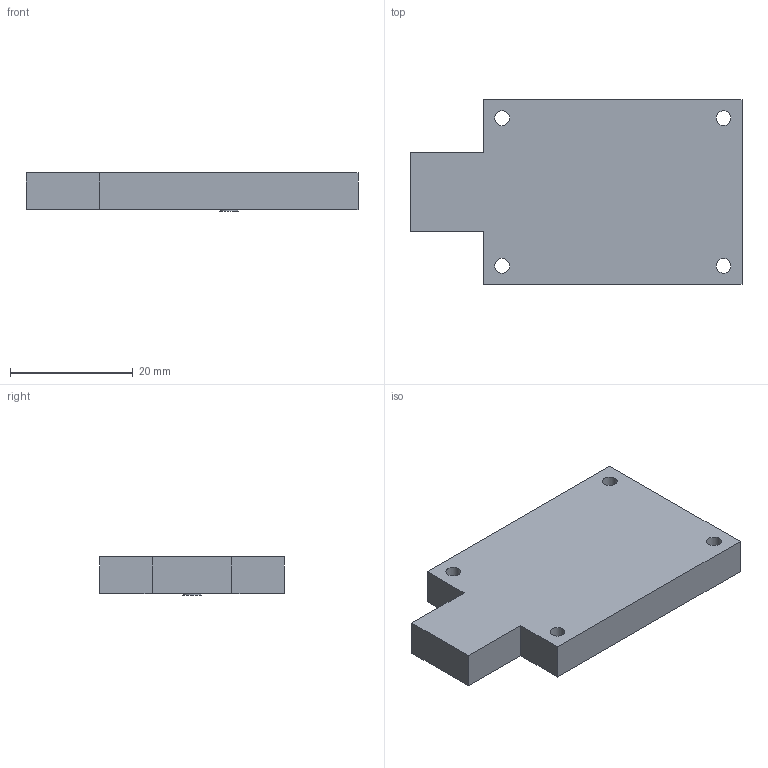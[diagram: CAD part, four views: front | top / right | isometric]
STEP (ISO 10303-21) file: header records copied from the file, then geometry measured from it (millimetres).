
FILE_DESCRIPTION(/* description */ ('STEP AP242 Edition 2','CAx-IF Rec.Pracs.---Representation and Presentation of Product Manufacturing Information (PMI)---4.0---2014-10-13','CAx-IF Rec.Pracs.---3D Tessellated Geometry---0.4---2014-09-14','2;1','CAx-IF Rec.Pracs.---User Defined Attributes---1.5---2016-08-15'),/* implementation_level */ '2;1');
FILE_NAME(/* name */ 'Assy_ForMFG - imu',/* time_stamp */ '2026-05-15T19:56:23Z',/* author */ (''),/* organization */ (''),/* preprocessor_version */ 'ST-DEVELOPER v20',/* originating_system */ 'ONSHAPE BY PTC INC, 1.215',/* authorisation */ ' ');
FILE_SCHEMA (('AP242_MANAGED_MODEL_BASED_3D_ENGINEERING_MIM_LF { 1 0 10303 442 3 1 4 }'));
Length unit declared in the file: metre
Products named in the file (1): imu
Bounding box: 54 x 30 x 6.25 mm (x, y, z)
Volume: 8389.2 mm3; surface area: 3987.1 mm2
Topology: 1 solids, 1 shells, 16 faces, 43 edges, 30 vertices
Faces by surface type: plane 11, cylinder 5
Full cylindrical faces by diameter (mm): 2.4 x4, 3 x1
Entity records: 486 total; most frequent: DIRECTION 78, CARTESIAN_POINT 77, ORIENTED_EDGE 68, EDGE_CURVE 34, EDGE_LOOP 30, FACE_BOUND 30, AXIS2_PLACEMENT_3D 27, VERTEX_POINT 26
